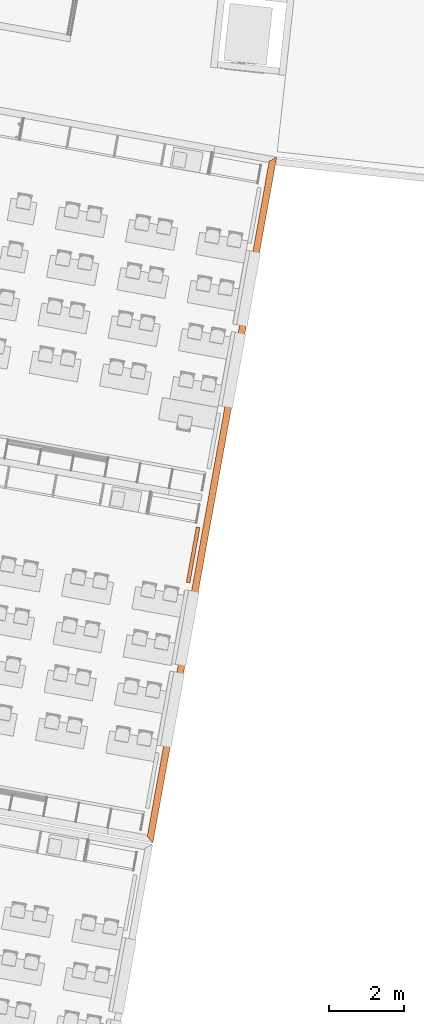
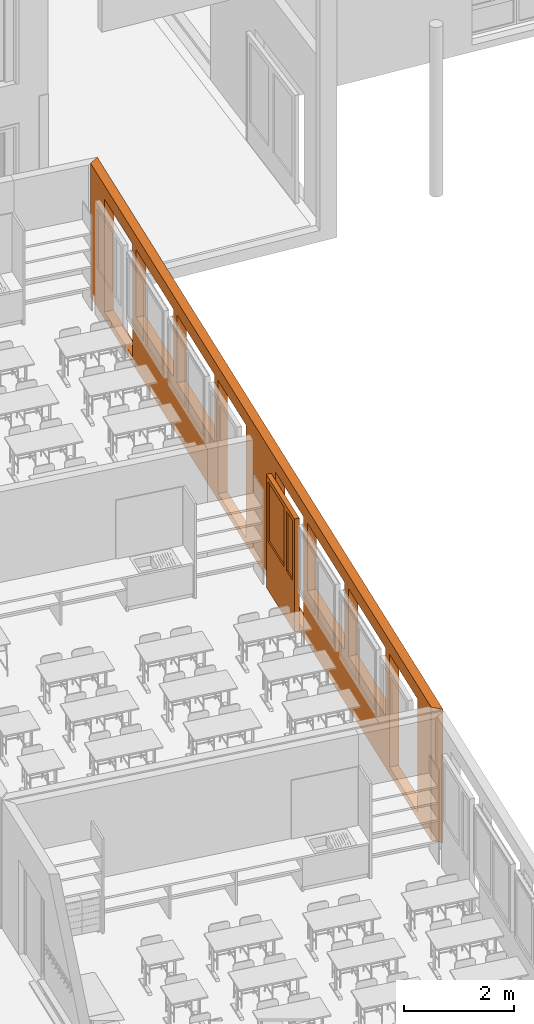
# One storey, part 66 of 79: 2 proxies.
"""IFC2X3 building model written with IfcOpenShell, lengths in metres."""

from ifc_helpers import new_model, entity, si_unit, converted_unit, derived_unit, money_unit, direction, frame, origin_with_axes, place, context, subcontext, project, spatial, polyline, outline, extrude, boolean, open_shell, faceted_brep, surface_model, material, type_object, element, save


model = new_model("IFC2X3")

# Units and contexts
model_context = context("Model", 3, precision=1e-05, world=origin_with_axes(), true_north=direction((0.0, 1.0)))
body_context = subcontext(model_context, "Body", "Model", "MODEL_VIEW")
ifc_project = project(units=[si_unit("LENGTHUNIT", "METRE"), si_unit("AREAUNIT", "SQUARE_METRE"), si_unit("VOLUMEUNIT", "CUBIC_METRE"), converted_unit("PLANEANGLEUNIT", "DEGREE", entity("IfcPlaneAngleMeasure", 0.0174532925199), si_unit("PLANEANGLEUNIT", "RADIAN"), dimensions=[0, 0, 0, 0, 0, 0, 0]), money_unit("CHF"), converted_unit("TIMEUNIT", "Year", entity("IfcTimeMeasure", 31556926.0), si_unit("TIMEUNIT", "SECOND"), dimensions=[0, 0, 1, 0, 0, 0, 0]), si_unit("MASSUNIT", "GRAM", prefix="KILO"), si_unit("THERMODYNAMICTEMPERATUREUNIT", "DEGREE_CELSIUS"), si_unit("LUMINOUSINTENSITYUNIT", "LUMEN"), si_unit("ENERGYUNIT", "JOULE", prefix="MEGA"), derived_unit("THERMALCONDUCTANCEUNIT", [(si_unit("POWERUNIT", "WATT"), 1), (si_unit("LENGTHUNIT", "METRE"), -1), (si_unit("THERMODYNAMICTEMPERATUREUNIT", "KELVIN"), -1)]), derived_unit("SPECIFICHEATCAPACITYUNIT", [(si_unit("ENERGYUNIT", "JOULE"), 1), (si_unit("MASSUNIT", "GRAM", prefix="KILO"), -1), (si_unit("THERMODYNAMICTEMPERATUREUNIT", "KELVIN"), -1)]), derived_unit("MASSDENSITYUNIT", [(si_unit("MASSUNIT", "GRAM", prefix="KILO"), 1), (si_unit("VOLUMEUNIT", "CUBIC_METRE"), -1)])], contexts=[model_context])

# Site, building, storey
site_placement = place(None, frame((0.0, 0.0, 0.0), z_axis=(0.0, 0.0, 1.0), x_axis=(-0.177771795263, -0.984071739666, 0.0)))
site = spatial("IfcSite", under=ifc_project, at=site_placement, Name="Site", CompositionType="ELEMENT")
building_placement = place(site_placement, origin_with_axes())
building = spatial("IfcBuilding", under=site, at=building_placement, Name="Bâtiment", CompositionType="ELEMENT")
storey_placement = place(building_placement, origin_with_axes())
storey = spatial("IfcBuildingStorey", under=building, at=storey_placement, Name="RDC", CompositionType="ELEMENT", Elevation=0.0)

# Proxies
ifc_material_1 = material(Name="_BA banché RAL9007")
building_element_proxy_type_1 = type_object("IfcBuildingElementProxyType", Name="_M ext 18 +18 gris 360", PredefinedType="NOTDEFINED")
proxy_1_placement = place(storey_placement, frame((128.464841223, -148.117151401, -0.15), z_axis=(0.0, 0.0, 1.0), x_axis=(-1.0, 0.0, 0.0)))
element("IfcBuildingElementProxy", 1, at=proxy_1_placement, inside=storey, type_object=building_element_proxy_type_1, material=ifc_material_1, Name="M ext-Est", context=body_context, shape_type="CSG", body=[
    boolean("DIFFERENCE", boolean("DIFFERENCE", boolean("DIFFERENCE", boolean("DIFFERENCE", boolean("DIFFERENCE", boolean("DIFFERENCE", boolean("DIFFERENCE", boolean("DIFFERENCE", extrude(outline(polyline([(0.0, 0.0), (18.54, 0.0), (18.4, 0.18), (0.140000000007, 0.18), (0.0, 0.0)])), origin_with_axes(), (0.0, 0.0, 1.0), 2.95), faceted_brep([(17.66, 0.18, 0.15), (16.16, 0.18, 0.15), (16.16, 0.18, 2.65), (17.66, 0.18, 2.65), (17.66, 0.0, 0.15), (16.16, 0.0, 0.15), (16.16, 0.0, 2.65), (17.66, 0.0, 2.65)], [[[0, 1, 2, 3]], [[4, 5, 1, 0]], [[5, 6, 2, 1]], [[6, 7, 3, 2]], [[7, 4, 0, 3]], [[4, 7, 6, 5]]])), faceted_brep([(15.96, 0.18, 1.15), (13.96, 0.18, 1.15), (13.96, 0.18, 2.65), (15.96, 0.18, 2.65), (15.96, 0.0, 1.15), (13.96, 0.0, 1.15), (13.96, 0.0, 2.65), (15.96, 0.0, 2.65)], [[[0, 1, 2, 3]], [[4, 5, 1, 0]], [[5, 6, 2, 1]], [[6, 7, 3, 2]], [[7, 4, 0, 3]], [[4, 7, 6, 5]]])), faceted_brep([(13.76, 0.18, 1.15), (11.76, 0.18, 1.15), (11.76, 0.18, 2.65), (13.76, 0.18, 2.65), (13.76, 0.0, 1.15), (11.76, 0.0, 1.15), (11.76, 0.0, 2.65), (13.76, 0.0, 2.65)], [[[0, 1, 2, 3]], [[4, 5, 1, 0]], [[5, 6, 2, 1]], [[6, 7, 3, 2]], [[7, 4, 0, 3]], [[4, 7, 6, 5]]])), faceted_brep([(11.56, 0.18, 0.15), (10.06, 0.18, 0.15), (10.06, 0.18, 2.65), (11.56, 0.18, 2.65), (11.56, 0.0, 0.15), (10.06, 0.0, 0.15), (10.06, 0.0, 2.65), (11.56, 0.0, 2.65)], [[[0, 1, 2, 3]], [[4, 5, 1, 0]], [[5, 6, 2, 1]], [[6, 7, 3, 2]], [[7, 4, 0, 3]], [[4, 7, 6, 5]]])), faceted_brep([(8.48000000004, 0.18, 0.15), (6.98000000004, 0.18, 0.15), (6.98000000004, 0.18, 2.65), (8.48000000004, 0.18, 2.65), (8.48000000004, 0.0, 0.15), (6.98000000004, 0.0, 0.15), (6.98000000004, 0.0, 2.65), (8.48000000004, 0.0, 2.65)], [[[0, 1, 2, 3]], [[4, 5, 1, 0]], [[5, 6, 2, 1]], [[6, 7, 3, 2]], [[7, 4, 0, 3]], [[4, 7, 6, 5]]])), faceted_brep([(6.78000000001, 0.18, 1.15), (4.78000000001, 0.18, 1.15), (4.78000000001, 0.18, 2.65), (6.78000000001, 0.18, 2.65), (6.78000000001, 0.0, 1.15), (4.78000000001, 0.0, 1.15), (4.78000000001, 0.0, 2.65), (6.78000000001, 0.0, 2.65)], [[[0, 1, 2, 3]], [[4, 5, 1, 0]], [[5, 6, 2, 1]], [[6, 7, 3, 2]], [[7, 4, 0, 3]], [[4, 7, 6, 5]]])), faceted_brep([(4.58000000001, 0.18, 1.15), (2.58000000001, 0.18, 1.15), (2.58000000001, 0.18, 2.65), (4.58000000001, 0.18, 2.65), (4.58000000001, 0.0, 1.15), (2.58000000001, 0.0, 1.15), (2.58000000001, 0.0, 2.65), (4.58000000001, 0.0, 2.65)], [[[0, 1, 2, 3]], [[4, 5, 1, 0]], [[5, 6, 2, 1]], [[6, 7, 3, 2]], [[7, 4, 0, 3]], [[4, 7, 6, 5]]])), faceted_brep([(2.38000000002, 0.18, 0.15), (0.880000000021, 0.18, 0.15), (0.880000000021, 0.18, 2.65), (2.38000000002, 0.18, 2.65), (2.38000000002, 0.0, 0.15), (0.880000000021, 0.0, 0.15), (0.880000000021, 0.0, 2.65), (2.38000000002, 0.0, 2.65)], [[[0, 1, 2, 3]], [[4, 5, 1, 0]], [[5, 6, 2, 1]], [[6, 7, 3, 2]], [[7, 4, 0, 3]], [[4, 7, 6, 5]]])),
])
ifc_material_2 = material(Name="Matériau de construction IFC")
building_element_proxy_type_2 = type_object("IfcBuildingElementProxyType", Name="Porte double asymétrique 21", PredefinedType="NOTDEFINED")
proxy_2_placement = place(storey_placement, frame((121.484841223, -148.117151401, 0.0), z_axis=(0.0, 0.0, 1.0), x_axis=(-1.0, 0.0, 0.0)))
element("IfcBuildingElementProxy", 2, at=proxy_2_placement, inside=storey, type_object=building_element_proxy_type_2, material=ifc_material_2, Name="Porte classe", context=body_context, shape_type="SurfaceModel", body=[
    faceted_brep([(0.0, 0.284999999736, 2.47), (0.00300000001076, 0.284999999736, 2.47), (0.00300000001, 0.264999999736, 2.47), (0.0, 0.264999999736, 2.47), (0.0, 0.284999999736, 2.5), (0.00300000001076, 0.284999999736, 2.5), (0.00300000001, 0.264999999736, 2.5), (0.0, 0.264999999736, 2.5)], [[[0, 1, 2, 3]], [[4, 5, 1, 0]], [[1, 5, 6, 2]], [[3, 2, 6, 7]], [[0, 3, 7, 4]], [[7, 6, 5, 4]]]),
    faceted_brep([(1.49700000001, 0.28499999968, 2.47), (1.50000000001, 0.28499999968, 2.47), (1.50000000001, 0.26499999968, 2.47), (1.49700000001, 0.26499999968, 2.47), (1.49700000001, 0.28499999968, 2.5), (1.50000000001, 0.28499999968, 2.5), (1.50000000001, 0.26499999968, 2.5), (1.49700000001, 0.26499999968, 2.5)], [[[0, 1, 2, 3]], [[4, 5, 1, 0]], [[1, 5, 6, 2]], [[3, 2, 6, 7]], [[0, 3, 7, 4]], [[7, 6, 5, 4]]]),
    faceted_brep([(0.00300000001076, 0.284999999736, 2.47), (1.49700000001, 0.28499999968, 2.47), (1.49700000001, 0.28199999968, 2.47), (0.00300000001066, 0.281999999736, 2.47), (0.00300000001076, 0.284999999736, 2.5), (1.49700000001, 0.28499999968, 2.5), (1.49700000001, 0.26499999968, 2.5), (1.49700000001, 0.26499999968, 2.47), (1.49700000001, 0.26799999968, 2.47), (1.49700000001, 0.26799999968, 2.49), (1.49700000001, 0.25999999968, 2.49), (1.49700000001, 0.25999999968, 2.47), (1.49700000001, 0.26299999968, 2.47), (1.49700000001, 0.26299999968, 2.493), (1.49700000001, 0.26799999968, 2.493), (1.49700000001, 0.26799999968, 2.497), (1.49700000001, 0.28199999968, 2.497), (1.49700000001, 0.28199999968, 2.49), (0.00300000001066, 0.281999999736, 2.49), (0.00300000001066, 0.281999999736, 2.497), (0.00300000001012, 0.267999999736, 2.497), (0.00300000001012, 0.267999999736, 2.493), (0.00300000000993, 0.262999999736, 2.493), (0.00300000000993, 0.262999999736, 2.47), (0.00300000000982, 0.259999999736, 2.47), (0.00300000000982, 0.259999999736, 2.49), (0.00300000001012, 0.267999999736, 2.49), (0.00300000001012, 0.267999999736, 2.47), (0.00300000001, 0.264999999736, 2.47), (0.00300000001, 0.264999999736, 2.5)], [[[0, 1, 2, 3]], [[4, 5, 1, 0]], [[1, 5, 6, 7, 8, 9, 10, 11, 12, 13, 14, 15, 16, 17, 2]], [[3, 2, 17, 18]], [[0, 3, 18, 19, 20, 21, 22, 23, 24, 25, 26, 27, 28, 29, 4]], [[29, 6, 5, 4]], [[28, 7, 6, 29]], [[27, 8, 7, 28]], [[26, 9, 8, 27]], [[25, 10, 9, 26]], [[24, 11, 10, 25]], [[23, 12, 11, 24]], [[22, 13, 12, 23]], [[21, 14, 13, 22]], [[20, 15, 14, 21]], [[19, 16, 15, 20]], [[18, 17, 16, 19]]]),
    faceted_brep([(1.50000000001, 0.28499999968, 0.0), (1.50000000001, 0.28499999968, 2.47), (1.50000000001, 0.25999999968, 2.47), (1.50000000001, 0.25999999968, 0.0), (1.47500000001, 0.28499999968, 0.0), (1.47500000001, 0.28499999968, 2.47), (1.47500000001, 0.28199999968, 2.47), (1.49700000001, 0.28199999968, 2.47), (1.49700000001, 0.26299999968, 2.47), (1.47500000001, 0.26299999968, 2.47), (1.47500000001, 0.25999999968, 2.47), (1.47500000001, 0.25999999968, 0.0), (1.47500000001, 0.26299999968, 0.0), (1.49700000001, 0.26299999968, 0.0), (1.49700000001, 0.28199999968, 0.0), (1.47500000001, 0.28199999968, 0.0)], [[[0, 1, 2, 3]], [[4, 5, 1, 0]], [[1, 5, 6, 7, 8, 9, 10, 2]], [[3, 2, 10, 11]], [[0, 3, 11, 12, 13, 14, 15, 4]], [[15, 6, 5, 4]], [[14, 7, 6, 15]], [[13, 8, 7, 14]], [[12, 9, 8, 13]], [[11, 10, 9, 12]]]),
    faceted_brep([(0.0, 0.284999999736, 0.0), (0.0, 0.259999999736, 0.0), (0.0, 0.259999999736, 2.47), (0.0, 0.284999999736, 2.47), (0.0250000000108, 0.284999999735, 0.0), (0.0250000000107, 0.281999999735, 0.0), (0.00300000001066, 0.281999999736, 0.0), (0.00300000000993, 0.262999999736, 0.0), (0.0250000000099, 0.262999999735, 0.0), (0.0250000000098, 0.259999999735, 0.0), (0.0250000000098, 0.259999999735, 2.47), (0.0250000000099, 0.262999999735, 2.47), (0.00300000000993, 0.262999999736, 2.47), (0.00300000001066, 0.281999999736, 2.47), (0.0250000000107, 0.281999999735, 2.47), (0.0250000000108, 0.284999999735, 2.47)], [[[0, 1, 2, 3]], [[0, 4, 5, 6, 7, 8, 9, 1]], [[1, 9, 10, 2]], [[3, 2, 10, 11, 12, 13, 14, 15]], [[4, 0, 3, 15]], [[5, 4, 15, 14]], [[6, 5, 14, 13]], [[7, 6, 13, 12]], [[8, 7, 12, 11]], [[9, 8, 11, 10]]]),
    faceted_brep([(1.49700000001, 0.27374999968, 2.495), (1.49700000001, 0.273333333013, 2.49333333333), (0.00300000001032, 0.273333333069, 2.49333333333), (0.00300000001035, 0.273749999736, 2.495), (1.49700000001, 0.26874999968, 2.495), (1.49700000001, 0.268333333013, 2.49333333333), (1.49700000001, 0.268333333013, 2.48666666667), (1.49700000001, 0.26999999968, 2.48), (1.49700000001, 0.27499999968, 2.48), (1.49700000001, 0.273333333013, 2.48666666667), (0.00300000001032, 0.273333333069, 2.48666666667), (0.00300000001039, 0.274999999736, 2.48), (0.0030000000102, 0.269999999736, 2.48), (0.00300000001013, 0.268333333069, 2.48666666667), (0.00300000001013, 0.268333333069, 2.49333333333), (0.00300000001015, 0.268749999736, 2.495)], [[[0, 1, 2, 3]], [[4, 5, 6, 7, 8, 9, 1, 0]], [[2, 1, 9, 10]], [[3, 2, 10, 11, 12, 13, 14, 15]], [[3, 15, 4, 0]], [[14, 5, 4, 15]], [[13, 6, 5, 14]], [[12, 7, 6, 13]], [[11, 8, 7, 12]], [[10, 9, 8, 11]]]),
    faceted_brep([(0.00300000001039, 0.274999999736, 2.48), (1.49700000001, 0.27499999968, 2.48), (1.49700000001, 0.273333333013, 2.47333333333), (0.00300000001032, 0.273333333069, 2.47333333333), (0.0030000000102, 0.269999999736, 2.48), (1.49700000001, 0.26999999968, 2.48), (1.49700000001, 0.268333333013, 2.47333333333), (1.49700000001, 0.268333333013, 2.46666666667), (1.49700000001, 0.26999999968, 2.46), (1.49700000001, 0.27499999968, 2.46), (1.49700000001, 0.273333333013, 2.46666666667), (0.00300000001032, 0.273333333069, 2.46666666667), (0.00300000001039, 0.274999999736, 2.46), (0.0030000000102, 0.269999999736, 2.46), (0.00300000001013, 0.268333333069, 2.46666666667), (0.00300000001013, 0.268333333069, 2.47333333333)], [[[0, 1, 2, 3]], [[4, 5, 1, 0]], [[1, 5, 6, 7, 8, 9, 10, 2]], [[3, 2, 10, 11]], [[0, 3, 11, 12, 13, 14, 15, 4]], [[15, 6, 5, 4]], [[14, 7, 6, 15]], [[13, 8, 7, 14]], [[12, 9, 8, 13]], [[11, 10, 9, 12]]]),
    faceted_brep([(0.00300000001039, 0.274999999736, 2.46), (1.49700000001, 0.27499999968, 2.46), (1.49700000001, 0.273333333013, 2.45333333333), (0.00300000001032, 0.273333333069, 2.45333333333), (0.0030000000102, 0.269999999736, 2.46), (1.49700000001, 0.26999999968, 2.46), (1.49700000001, 0.268333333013, 2.45333333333), (1.49700000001, 0.268333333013, 2.44666666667), (1.49700000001, 0.26999999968, 2.44), (1.49700000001, 0.27499999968, 2.44), (1.49700000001, 0.273333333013, 2.44666666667), (0.00300000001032, 0.273333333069, 2.44666666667), (0.00300000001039, 0.274999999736, 2.44), (0.0030000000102, 0.269999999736, 2.44), (0.00300000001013, 0.268333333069, 2.44666666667), (0.00300000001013, 0.268333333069, 2.45333333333)], [[[0, 1, 2, 3]], [[4, 5, 1, 0]], [[1, 5, 6, 7, 8, 9, 10, 2]], [[3, 2, 10, 11]], [[0, 3, 11, 12, 13, 14, 15, 4]], [[15, 6, 5, 4]], [[14, 7, 6, 15]], [[13, 8, 7, 14]], [[12, 9, 8, 13]], [[11, 10, 9, 12]]]),
    faceted_brep([(0.00300000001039, 0.274999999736, 2.44), (1.49700000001, 0.27499999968, 2.44), (1.49700000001, 0.273333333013, 2.43333333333), (0.00300000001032, 0.273333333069, 2.43333333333), (0.0030000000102, 0.269999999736, 2.44), (1.49700000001, 0.26999999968, 2.44), (1.49700000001, 0.268333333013, 2.43333333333), (1.49700000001, 0.268333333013, 2.42666666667), (1.49700000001, 0.26999999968, 2.42), (1.49700000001, 0.27499999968, 2.42), (1.49700000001, 0.273333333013, 2.42666666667), (0.00300000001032, 0.273333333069, 2.42666666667), (0.00300000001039, 0.274999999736, 2.42), (0.0030000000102, 0.269999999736, 2.42), (0.00300000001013, 0.268333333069, 2.42666666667), (0.00300000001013, 0.268333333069, 2.43333333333)], [[[0, 1, 2, 3]], [[4, 5, 1, 0]], [[1, 5, 6, 7, 8, 9, 10, 2]], [[3, 2, 10, 11]], [[0, 3, 11, 12, 13, 14, 15, 4]], [[15, 6, 5, 4]], [[14, 7, 6, 15]], [[13, 8, 7, 14]], [[12, 9, 8, 13]], [[11, 10, 9, 12]]]),
    faceted_brep([(0.00300000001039, 0.274999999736, 2.42), (1.49700000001, 0.27499999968, 2.42), (1.49700000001, 0.273333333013, 2.41333333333), (0.00300000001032, 0.273333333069, 2.41333333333), (0.0030000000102, 0.269999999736, 2.42), (1.49700000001, 0.26999999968, 2.42), (1.49700000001, 0.268333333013, 2.41333333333), (1.49700000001, 0.268333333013, 2.40666666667), (1.49700000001, 0.26999999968, 2.4), (1.49700000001, 0.27499999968, 2.4), (1.49700000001, 0.273333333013, 2.40666666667), (0.00300000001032, 0.273333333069, 2.40666666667), (0.00300000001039, 0.274999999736, 2.4), (0.0030000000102, 0.269999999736, 2.4), (0.00300000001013, 0.268333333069, 2.40666666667), (0.00300000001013, 0.268333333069, 2.41333333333)], [[[0, 1, 2, 3]], [[4, 5, 1, 0]], [[1, 5, 6, 7, 8, 9, 10, 2]], [[3, 2, 10, 11]], [[0, 3, 11, 12, 13, 14, 15, 4]], [[15, 6, 5, 4]], [[14, 7, 6, 15]], [[13, 8, 7, 14]], [[12, 9, 8, 13]], [[11, 10, 9, 12]]]),
    faceted_brep([(0.00300000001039, 0.274999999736, 2.4), (1.49700000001, 0.27499999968, 2.4), (1.49700000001, 0.273333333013, 2.39333333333), (0.00300000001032, 0.273333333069, 2.39333333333), (0.0030000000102, 0.269999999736, 2.4), (1.49700000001, 0.26999999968, 2.4), (1.49700000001, 0.268333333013, 2.39333333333), (1.49700000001, 0.268333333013, 2.38666666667), (1.49700000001, 0.26999999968, 2.38), (1.49700000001, 0.27499999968, 2.38), (1.49700000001, 0.273333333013, 2.38666666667), (0.00300000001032, 0.273333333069, 2.38666666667), (0.00300000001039, 0.274999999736, 2.38), (0.0030000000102, 0.269999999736, 2.38), (0.00300000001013, 0.268333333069, 2.38666666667), (0.00300000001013, 0.268333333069, 2.39333333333)], [[[0, 1, 2, 3]], [[4, 5, 1, 0]], [[1, 5, 6, 7, 8, 9, 10, 2]], [[3, 2, 10, 11]], [[0, 3, 11, 12, 13, 14, 15, 4]], [[15, 6, 5, 4]], [[14, 7, 6, 15]], [[13, 8, 7, 14]], [[12, 9, 8, 13]], [[11, 10, 9, 12]]]),
    faceted_brep([(0.00300000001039, 0.274999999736, 2.38), (1.49700000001, 0.27499999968, 2.38), (1.49700000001, 0.273333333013, 2.37333333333), (0.00300000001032, 0.273333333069, 2.37333333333), (0.0030000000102, 0.269999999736, 2.38), (1.49700000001, 0.26999999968, 2.38), (1.49700000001, 0.268333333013, 2.37333333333), (1.49700000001, 0.268333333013, 2.36666666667), (1.49700000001, 0.26999999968, 2.36), (1.49700000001, 0.27499999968, 2.36), (1.49700000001, 0.273333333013, 2.36666666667), (0.00300000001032, 0.273333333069, 2.36666666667), (0.00300000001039, 0.274999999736, 2.36), (0.0030000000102, 0.269999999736, 2.36), (0.00300000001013, 0.268333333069, 2.36666666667), (0.00300000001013, 0.268333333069, 2.37333333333)], [[[0, 1, 2, 3]], [[4, 5, 1, 0]], [[1, 5, 6, 7, 8, 9, 10, 2]], [[3, 2, 10, 11]], [[0, 3, 11, 12, 13, 14, 15, 4]], [[15, 6, 5, 4]], [[14, 7, 6, 15]], [[13, 8, 7, 14]], [[12, 9, 8, 13]], [[11, 10, 9, 12]]]),
    faceted_brep([(0.00300000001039, 0.274999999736, 2.36), (1.49700000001, 0.27499999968, 2.36), (1.49700000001, 0.273333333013, 2.35333333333), (0.00300000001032, 0.273333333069, 2.35333333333), (0.0030000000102, 0.269999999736, 2.36), (1.49700000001, 0.26999999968, 2.36), (1.49700000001, 0.268333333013, 2.35333333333), (1.49700000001, 0.268333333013, 2.34666666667), (1.49700000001, 0.26999999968, 2.34), (1.49700000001, 0.27499999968, 2.34), (1.49700000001, 0.273333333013, 2.34666666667), (0.00300000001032, 0.273333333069, 2.34666666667), (0.00300000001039, 0.274999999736, 2.34), (0.0030000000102, 0.269999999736, 2.34), (0.00300000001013, 0.268333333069, 2.34666666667), (0.00300000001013, 0.268333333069, 2.35333333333)], [[[0, 1, 2, 3]], [[4, 5, 1, 0]], [[1, 5, 6, 7, 8, 9, 10, 2]], [[3, 2, 10, 11]], [[0, 3, 11, 12, 13, 14, 15, 4]], [[15, 6, 5, 4]], [[14, 7, 6, 15]], [[13, 8, 7, 14]], [[12, 9, 8, 13]], [[11, 10, 9, 12]]]),
    faceted_brep([(0.00300000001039, 0.274999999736, 2.34), (1.49700000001, 0.27499999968, 2.34), (1.49700000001, 0.273333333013, 2.33333333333), (0.00300000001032, 0.273333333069, 2.33333333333), (0.0030000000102, 0.269999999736, 2.34), (1.49700000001, 0.26999999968, 2.34), (1.49700000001, 0.268333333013, 2.33333333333), (1.49700000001, 0.268333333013, 2.32666666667), (1.49700000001, 0.26999999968, 2.32), (1.49700000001, 0.27499999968, 2.32), (1.49700000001, 0.273333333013, 2.32666666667), (0.00300000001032, 0.273333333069, 2.32666666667), (0.00300000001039, 0.274999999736, 2.32), (0.0030000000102, 0.269999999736, 2.32), (0.00300000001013, 0.268333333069, 2.32666666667), (0.00300000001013, 0.268333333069, 2.33333333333)], [[[0, 1, 2, 3]], [[4, 5, 1, 0]], [[1, 5, 6, 7, 8, 9, 10, 2]], [[3, 2, 10, 11]], [[0, 3, 11, 12, 13, 14, 15, 4]], [[15, 6, 5, 4]], [[14, 7, 6, 15]], [[13, 8, 7, 14]], [[12, 9, 8, 13]], [[11, 10, 9, 12]]]),
    faceted_brep([(0.00300000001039, 0.274999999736, 2.32), (1.49700000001, 0.27499999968, 2.32), (1.49700000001, 0.273333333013, 2.31333333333), (0.00300000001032, 0.273333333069, 2.31333333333), (0.0030000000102, 0.269999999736, 2.32), (1.49700000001, 0.26999999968, 2.32), (1.49700000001, 0.268333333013, 2.31333333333), (1.49700000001, 0.268333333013, 2.30666666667), (1.49700000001, 0.26999999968, 2.3), (1.49700000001, 0.27499999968, 2.3), (1.49700000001, 0.273333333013, 2.30666666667), (0.00300000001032, 0.273333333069, 2.30666666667), (0.00300000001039, 0.274999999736, 2.3), (0.0030000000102, 0.269999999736, 2.3), (0.00300000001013, 0.268333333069, 2.30666666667), (0.00300000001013, 0.268333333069, 2.31333333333)], [[[0, 1, 2, 3]], [[4, 5, 1, 0]], [[1, 5, 6, 7, 8, 9, 10, 2]], [[3, 2, 10, 11]], [[0, 3, 11, 12, 13, 14, 15, 4]], [[15, 6, 5, 4]], [[14, 7, 6, 15]], [[13, 8, 7, 14]], [[12, 9, 8, 13]], [[11, 10, 9, 12]]]),
    faceted_brep([(0.00300000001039, 0.274999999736, 2.3), (1.49700000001, 0.27499999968, 2.3), (1.49700000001, 0.273333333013, 2.29333333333), (0.00300000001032, 0.273333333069, 2.29333333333), (0.0030000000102, 0.269999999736, 2.3), (1.49700000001, 0.26999999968, 2.3), (1.49700000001, 0.268333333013, 2.29333333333), (1.49700000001, 0.268333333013, 2.28666666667), (1.49700000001, 0.26999999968, 2.28), (1.49700000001, 0.27499999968, 2.28), (1.49700000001, 0.273333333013, 2.28666666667), (0.00300000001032, 0.273333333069, 2.28666666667), (0.00300000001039, 0.274999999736, 2.28), (0.0030000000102, 0.269999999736, 2.28), (0.00300000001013, 0.268333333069, 2.28666666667), (0.00300000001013, 0.268333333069, 2.29333333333)], [[[0, 1, 2, 3]], [[4, 5, 1, 0]], [[1, 5, 6, 7, 8, 9, 10, 2]], [[3, 2, 10, 11]], [[0, 3, 11, 12, 13, 14, 15, 4]], [[15, 6, 5, 4]], [[14, 7, 6, 15]], [[13, 8, 7, 14]], [[12, 9, 8, 13]], [[11, 10, 9, 12]]]),
    faceted_brep([(0.00300000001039, 0.274999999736, 2.28), (1.49700000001, 0.27499999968, 2.28), (1.49700000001, 0.273333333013, 2.27333333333), (0.00300000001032, 0.273333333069, 2.27333333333), (0.0030000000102, 0.269999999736, 2.28), (1.49700000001, 0.26999999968, 2.28), (1.49700000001, 0.268333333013, 2.27333333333), (1.49700000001, 0.268333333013, 2.26666666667), (1.49700000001, 0.26999999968, 2.26), (1.49700000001, 0.27499999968, 2.26), (1.49700000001, 0.273333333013, 2.26666666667), (0.00300000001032, 0.273333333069, 2.26666666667), (0.00300000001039, 0.274999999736, 2.26), (0.0030000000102, 0.269999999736, 2.26), (0.00300000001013, 0.268333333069, 2.26666666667), (0.00300000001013, 0.268333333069, 2.27333333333)], [[[0, 1, 2, 3]], [[4, 5, 1, 0]], [[1, 5, 6, 7, 8, 9, 10, 2]], [[3, 2, 10, 11]], [[0, 3, 11, 12, 13, 14, 15, 4]], [[15, 6, 5, 4]], [[14, 7, 6, 15]], [[13, 8, 7, 14]], [[12, 9, 8, 13]], [[11, 10, 9, 12]]]),
    faceted_brep([(0.00300000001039, 0.274999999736, 2.26), (1.49700000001, 0.27499999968, 2.26), (1.49700000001, 0.273333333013, 2.25333333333), (0.00300000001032, 0.273333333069, 2.25333333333), (0.0030000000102, 0.269999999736, 2.26), (1.49700000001, 0.26999999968, 2.26), (1.49700000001, 0.268333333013, 2.25333333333), (1.49700000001, 0.268333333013, 2.24666666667), (1.49700000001, 0.26999999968, 2.24), (1.49700000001, 0.27499999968, 2.24), (1.49700000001, 0.273333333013, 2.24666666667), (0.00300000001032, 0.273333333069, 2.24666666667), (0.00300000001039, 0.274999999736, 2.24), (0.0030000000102, 0.269999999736, 2.24), (0.00300000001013, 0.268333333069, 2.24666666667), (0.00300000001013, 0.268333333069, 2.25333333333)], [[[0, 1, 2, 3]], [[4, 5, 1, 0]], [[1, 5, 6, 7, 8, 9, 10, 2]], [[3, 2, 10, 11]], [[0, 3, 11, 12, 13, 14, 15, 4]], [[15, 6, 5, 4]], [[14, 7, 6, 15]], [[13, 8, 7, 14]], [[12, 9, 8, 13]], [[11, 10, 9, 12]]]),
    faceted_brep([(0.00300000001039, 0.274999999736, 2.24), (1.49700000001, 0.27499999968, 2.24), (1.49700000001, 0.273333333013, 2.23333333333), (0.00300000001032, 0.273333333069, 2.23333333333), (0.0030000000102, 0.269999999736, 2.24), (1.49700000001, 0.26999999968, 2.24), (1.49700000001, 0.268333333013, 2.23333333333), (1.49700000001, 0.268333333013, 2.22666666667), (1.49700000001, 0.26999999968, 2.22), (1.49700000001, 0.27499999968, 2.22), (1.49700000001, 0.273333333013, 2.22666666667), (0.00300000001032, 0.273333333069, 2.22666666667), (0.00300000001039, 0.274999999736, 2.22), (0.0030000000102, 0.269999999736, 2.22), (0.00300000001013, 0.268333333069, 2.22666666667), (0.00300000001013, 0.268333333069, 2.23333333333)], [[[0, 1, 2, 3]], [[4, 5, 1, 0]], [[1, 5, 6, 7, 8, 9, 10, 2]], [[3, 2, 10, 11]], [[0, 3, 11, 12, 13, 14, 15, 4]], [[15, 6, 5, 4]], [[14, 7, 6, 15]], [[13, 8, 7, 14]], [[12, 9, 8, 13]], [[11, 10, 9, 12]]]),
    faceted_brep([(0.00300000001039, 0.274999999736, 2.22), (1.49700000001, 0.27499999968, 2.22), (1.49700000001, 0.273333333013, 2.21333333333), (0.00300000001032, 0.273333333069, 2.21333333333), (0.0030000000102, 0.269999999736, 2.22), (1.49700000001, 0.26999999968, 2.22), (1.49700000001, 0.268333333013, 2.21333333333), (1.49700000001, 0.268333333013, 2.20666666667), (1.49700000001, 0.26999999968, 2.2), (1.49700000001, 0.27499999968, 2.2), (1.49700000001, 0.273333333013, 2.20666666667), (0.00300000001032, 0.273333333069, 2.20666666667), (0.00300000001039, 0.274999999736, 2.2), (0.0030000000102, 0.269999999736, 2.2), (0.00300000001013, 0.268333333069, 2.20666666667), (0.00300000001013, 0.268333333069, 2.21333333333)], [[[0, 1, 2, 3]], [[4, 5, 1, 0]], [[1, 5, 6, 7, 8, 9, 10, 2]], [[3, 2, 10, 11]], [[0, 3, 11, 12, 13, 14, 15, 4]], [[15, 6, 5, 4]], [[14, 7, 6, 15]], [[13, 8, 7, 14]], [[12, 9, 8, 13]], [[11, 10, 9, 12]]]),
    faceted_brep([(0.0, 0.359999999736, 0.0), (0.0300000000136, 0.359999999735, 0.0), (0.0300000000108, 0.284999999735, 0.0), (0.0, 0.284999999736, 0.0), (0.0, 0.359999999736, 2.47), (0.0300000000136, 0.359999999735, 2.47), (0.0300000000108, 0.284999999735, 2.47), (0.0, 0.284999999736, 2.47)], [[[0, 1, 2, 3]], [[0, 4, 5, 1]], [[1, 5, 6, 2]], [[3, 2, 6, 7]], [[4, 0, 3, 7]], [[5, 4, 7, 6]]]),
    faceted_brep([(1.50000000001, 0.35999999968, 0.0), (1.50000000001, 0.35999999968, 2.47), (1.50000000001, 0.28499999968, 2.47), (1.50000000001, 0.28499999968, 0.0), (1.47000000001, 0.359999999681, 0.0), (1.47000000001, 0.359999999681, 2.47), (1.47000000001, 0.284999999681, 2.47), (1.47000000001, 0.284999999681, 0.0)], [[[0, 1, 2, 3]], [[0, 4, 5, 1]], [[1, 5, 6, 2]], [[3, 2, 6, 7]], [[4, 0, 3, 7]], [[5, 4, 7, 6]]]),
    faceted_brep([(0.0, 0.359999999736, 2.5), (0.0, 0.359999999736, 2.47), (0.0, 0.284999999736, 2.47), (0.0, 0.284999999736, 2.5), (1.50000000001, 0.35999999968, 2.5), (1.50000000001, 0.35999999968, 2.47), (1.47000000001, 0.359999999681, 2.47), (0.0300000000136, 0.359999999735, 2.47), (0.0300000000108, 0.284999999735, 2.47), (1.47000000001, 0.284999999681, 2.47), (1.50000000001, 0.28499999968, 2.47), (1.50000000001, 0.28499999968, 2.5)], [[[0, 1, 2, 3]], [[0, 4, 5, 6, 7, 1]], [[1, 7, 8, 2]], [[3, 2, 8, 9, 10, 11]], [[4, 0, 3, 11]], [[5, 4, 11, 10]], [[6, 5, 10, 9]], [[7, 6, 9, 8]]]),
    faceted_brep([(1.47000000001, 0.359999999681, 1.08), (1.47000000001, 0.284999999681, 1.08), (1.40000000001, 0.284999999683, 1.08), (1.40000000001, 0.359999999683, 1.08), (1.47000000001, 0.359999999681, 2.4), (1.47000000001, 0.284999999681, 2.4), (1.40000000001, 0.284999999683, 2.4), (1.40000000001, 0.359999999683, 2.4)], [[[0, 1, 2, 3]], [[4, 5, 1, 0]], [[1, 5, 6, 2]], [[3, 2, 6, 7]], [[0, 3, 7, 4]], [[7, 6, 5, 4]]]),
    faceted_brep([(0.490000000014, 0.359999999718, 1.08), (0.490000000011, 0.284999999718, 1.08), (0.490000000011, 0.284999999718, 2.4), (0.490000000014, 0.359999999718, 2.4), (0.560000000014, 0.359999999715, 1.08), (0.560000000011, 0.284999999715, 1.08), (0.560000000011, 0.284999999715, 2.4), (0.560000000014, 0.359999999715, 2.4)], [[[0, 1, 2, 3]], [[4, 5, 1, 0]], [[1, 5, 6, 2]], [[3, 2, 6, 7]], [[0, 3, 7, 4]], [[7, 6, 5, 4]]]),
    faceted_brep([(1.47000000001, 0.359999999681, 0.0), (1.47000000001, 0.284999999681, 0.0), (0.490000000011, 0.284999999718, 0.0), (0.490000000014, 0.359999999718, 0.0), (1.47000000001, 0.359999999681, 1.08), (1.47000000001, 0.284999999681, 1.08), (1.40000000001, 0.284999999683, 1.08), (0.560000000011, 0.284999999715, 1.08), (0.490000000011, 0.284999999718, 1.08), (0.490000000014, 0.359999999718, 1.08), (0.560000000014, 0.359999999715, 1.08), (1.40000000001, 0.359999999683, 1.08)], [[[0, 1, 2, 3]], [[4, 5, 1, 0]], [[1, 5, 6, 7, 8, 2]], [[3, 2, 8, 9]], [[0, 3, 9, 10, 11, 4]], [[11, 6, 5, 4]], [[10, 7, 6, 11]], [[9, 8, 7, 10]]]),
    faceted_brep([(1.47000000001, 0.359999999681, 2.47), (1.47000000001, 0.284999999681, 2.47), (1.47000000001, 0.284999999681, 2.4), (1.47000000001, 0.359999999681, 2.4), (0.490000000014, 0.359999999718, 2.47), (0.490000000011, 0.284999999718, 2.47), (0.490000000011, 0.284999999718, 2.4), (0.560000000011, 0.284999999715, 2.4), (1.40000000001, 0.284999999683, 2.4), (1.40000000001, 0.359999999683, 2.4), (0.560000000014, 0.359999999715, 2.4), (0.490000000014, 0.359999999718, 2.4)], [[[0, 1, 2, 3]], [[4, 5, 1, 0]], [[1, 5, 6, 7, 8, 2]], [[3, 2, 8, 9]], [[0, 3, 9, 10, 11, 4]], [[11, 6, 5, 4]], [[10, 7, 6, 11]], [[9, 8, 7, 10]]]),
    surface_model("IfcShellBasedSurfaceModel", [(1.40000000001, 0.332499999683, 1.08), (0.560000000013, 0.332499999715, 1.08), (0.560000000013, 0.332499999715, 2.4), (1.40000000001, 0.332499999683, 2.4)], [open_shell([[[0, 1, 2, 3]]])]),
    surface_model("IfcShellBasedSurfaceModel", [(1.40000000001, 0.312499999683, 1.08), (1.40000000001, 0.312499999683, 2.4), (0.560000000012, 0.312499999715, 2.4), (0.560000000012, 0.312499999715, 1.08)], [open_shell([[[0, 1, 2, 3]]])]),
    faceted_brep([(0.0300000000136, 0.359999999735, 1.08), (0.100000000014, 0.359999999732, 1.08), (0.100000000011, 0.284999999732, 1.08), (0.0300000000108, 0.284999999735, 1.08), (0.0300000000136, 0.359999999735, 2.4), (0.100000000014, 0.359999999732, 2.4), (0.100000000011, 0.284999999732, 2.4), (0.0300000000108, 0.284999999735, 2.4)], [[[0, 1, 2, 3]], [[0, 4, 5, 1]], [[1, 5, 6, 2]], [[3, 2, 6, 7]], [[4, 0, 3, 7]], [[5, 4, 7, 6]]]),
    faceted_brep([(0.490000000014, 0.359999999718, 1.08), (0.490000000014, 0.359999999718, 2.4), (0.490000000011, 0.284999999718, 2.4), (0.490000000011, 0.284999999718, 1.08), (0.420000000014, 0.35999999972, 1.08), (0.420000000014, 0.35999999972, 2.4), (0.420000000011, 0.28499999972, 2.4), (0.420000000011, 0.28499999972, 1.08)], [[[0, 1, 2, 3]], [[0, 4, 5, 1]], [[1, 5, 6, 2]], [[3, 2, 6, 7]], [[4, 0, 3, 7]], [[5, 4, 7, 6]]]),
    faceted_brep([(0.0300000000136, 0.359999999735, 0.0), (0.490000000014, 0.359999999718, 0.0), (0.490000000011, 0.284999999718, 0.0), (0.0300000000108, 0.284999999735, 0.0), (0.0300000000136, 0.359999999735, 1.08), (0.100000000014, 0.359999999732, 1.08), (0.420000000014, 0.35999999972, 1.08), (0.490000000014, 0.359999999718, 1.08), (0.490000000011, 0.284999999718, 1.08), (0.420000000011, 0.28499999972, 1.08), (0.100000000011, 0.284999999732, 1.08), (0.0300000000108, 0.284999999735, 1.08)], [[[0, 1, 2, 3]], [[0, 4, 5, 6, 7, 1]], [[1, 7, 8, 2]], [[3, 2, 8, 9, 10, 11]], [[4, 0, 3, 11]], [[5, 4, 11, 10]], [[6, 5, 10, 9]], [[7, 6, 9, 8]]]),
    faceted_brep([(0.0300000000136, 0.359999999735, 2.47), (0.0300000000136, 0.359999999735, 2.4), (0.0300000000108, 0.284999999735, 2.4), (0.0300000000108, 0.284999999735, 2.47), (0.490000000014, 0.359999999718, 2.47), (0.490000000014, 0.359999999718, 2.4), (0.420000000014, 0.35999999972, 2.4), (0.100000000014, 0.359999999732, 2.4), (0.100000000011, 0.284999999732, 2.4), (0.420000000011, 0.28499999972, 2.4), (0.490000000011, 0.284999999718, 2.4), (0.490000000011, 0.284999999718, 2.47)], [[[0, 1, 2, 3]], [[0, 4, 5, 6, 7, 1]], [[1, 7, 8, 2]], [[3, 2, 8, 9, 10, 11]], [[4, 0, 3, 11]], [[5, 4, 11, 10]], [[6, 5, 10, 9]], [[7, 6, 9, 8]]]),
    surface_model("IfcShellBasedSurfaceModel", [(0.100000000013, 0.332499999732, 1.08), (0.100000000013, 0.332499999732, 2.4), (0.420000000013, 0.33249999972, 2.4), (0.420000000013, 0.33249999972, 1.08)], [open_shell([[[0, 1, 2, 3]]])]),
    surface_model("IfcShellBasedSurfaceModel", [(0.100000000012, 0.312499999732, 1.08), (0.420000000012, 0.31249999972, 1.08), (0.420000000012, 0.31249999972, 2.4), (0.100000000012, 0.312499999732, 2.4)], [open_shell([[[0, 1, 2, 3]]])]),
])

save(model, "model.ifc")
